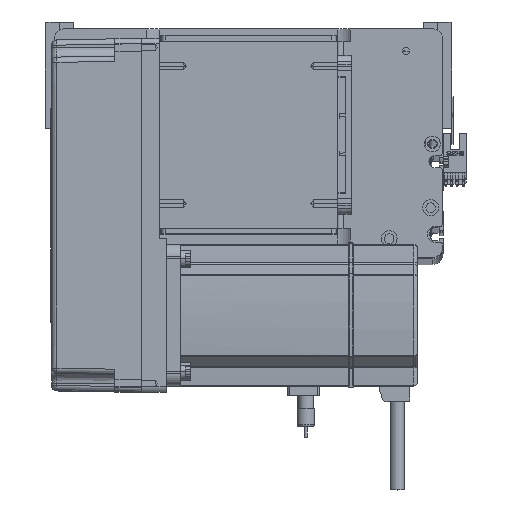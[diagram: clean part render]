
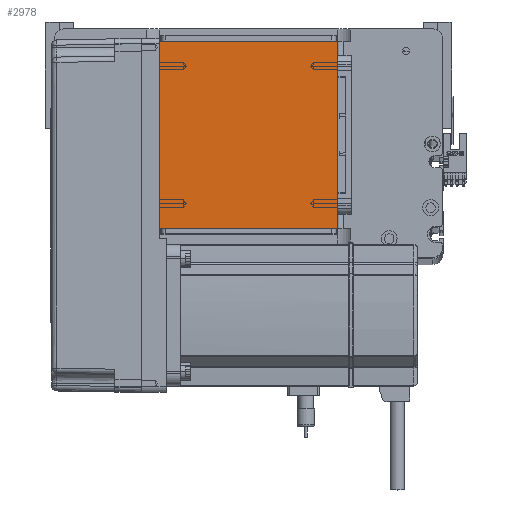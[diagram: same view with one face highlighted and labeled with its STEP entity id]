
A CAD part, top view. The second image highlights one B-rep face of the part: STEP entity #2978.
In plain terms, the highlighted planar face has unit normal (0, 0, 1).
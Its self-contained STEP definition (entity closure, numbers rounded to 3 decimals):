
#155 = ORIENTED_EDGE ( 'NONE', *, *, #30775, .T. ) ;
#1298 = DIRECTION ( 'NONE',  ( 0., -1., 0. ) ) ;
#1335 = VERTEX_POINT ( 'NONE', #34519 ) ;
#2978 = ADVANCED_FACE ( 'NONE', ( #32492 ), #42251, .T. ) ;
#4286 = DIRECTION ( 'NONE',  ( 1., 0., 0. ) ) ;
#5794 = DIRECTION ( 'NONE',  ( -1., 0., 0. ) ) ;
#7216 = EDGE_CURVE ( 'NONE', #44471, #21725, #36797, .T. ) ;
#7354 = VERTEX_POINT ( 'NONE', #35840 ) ;
#8202 = CARTESIAN_POINT ( 'NONE',  ( 50.5, 122., 115. ) ) ;
#8237 = CARTESIAN_POINT ( 'NONE',  ( -50.5, 122., 115. ) ) ;
#9348 = DIRECTION ( 'NONE',  ( 1., 0., 0. ) ) ;
#9428 = VECTOR ( 'NONE', #23873, 1000. ) ;
#10999 = AXIS2_PLACEMENT_3D ( 'NONE', #51476, #25316, #4286 ) ;
#11809 = ORIENTED_EDGE ( 'NONE', *, *, #7216, .T. ) ;
#12928 = LINE ( 'NONE', #17520, #48083 ) ;
#17520 = CARTESIAN_POINT ( 'NONE',  ( -50.5, 122., 115. ) ) ;
#18536 = VECTOR ( 'NONE', #9348, 1000. ) ;
#19883 = LINE ( 'NONE', #51578, #18536 ) ;
#21725 = VERTEX_POINT ( 'NONE', #8237 ) ;
#21990 = EDGE_CURVE ( 'NONE', #7354, #44471, #39250, .T. ) ;
#23873 = DIRECTION ( 'NONE',  ( 0., 1., 0. ) ) ;
#25316 = DIRECTION ( 'NONE',  ( 0., 0., 1. ) ) ;
#26485 = CARTESIAN_POINT ( 'NONE',  ( -50.5, 122., 115. ) ) ;
#30775 = EDGE_CURVE ( 'NONE', #21725, #1335, #12928, .T. ) ;
#32492 = FACE_OUTER_BOUND ( 'NONE', #45570, .T. ) ;
#34519 = CARTESIAN_POINT ( 'NONE',  ( -50.5, 16., 115. ) ) ;
#34927 = ORIENTED_EDGE ( 'NONE', *, *, #37203, .T. ) ;
#35840 = CARTESIAN_POINT ( 'NONE',  ( 50.5, 16., 115. ) ) ;
#36797 = LINE ( 'NONE', #26485, #39416 ) ;
#37203 = EDGE_CURVE ( 'NONE', #1335, #7354, #19883, .T. ) ;
#39250 = LINE ( 'NONE', #40610, #9428 ) ;
#39416 = VECTOR ( 'NONE', #5794, 1000. ) ;
#40264 = ORIENTED_EDGE ( 'NONE', *, *, #21990, .T. ) ;
#40610 = CARTESIAN_POINT ( 'NONE',  ( 50.5, 122., 115. ) ) ;
#42251 = PLANE ( 'NONE',  #10999 ) ;
#44471 = VERTEX_POINT ( 'NONE', #8202 ) ;
#45570 = EDGE_LOOP ( 'NONE', ( #155, #34927, #40264, #11809 ) ) ;
#48083 = VECTOR ( 'NONE', #1298, 1000. ) ;
#51476 = CARTESIAN_POINT ( 'NONE',  ( 0., 0., 115. ) ) ;
#51578 = CARTESIAN_POINT ( 'NONE',  ( -50.5, 16., 115. ) ) ;
